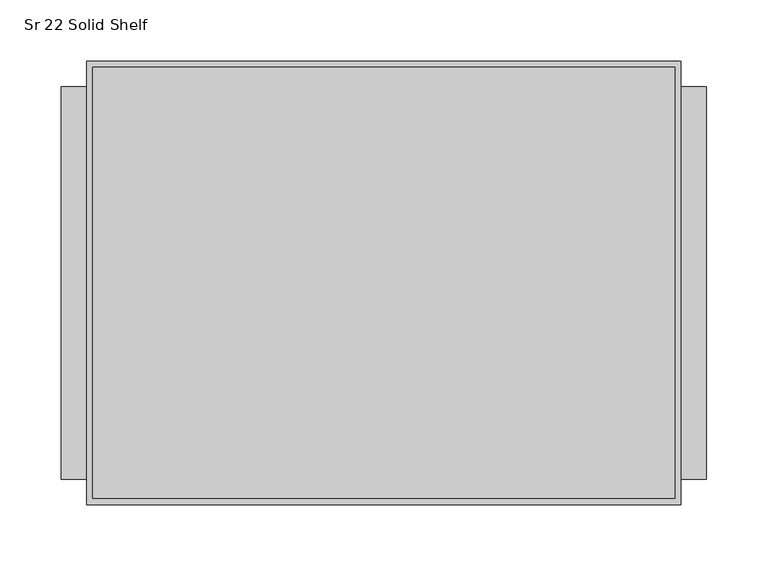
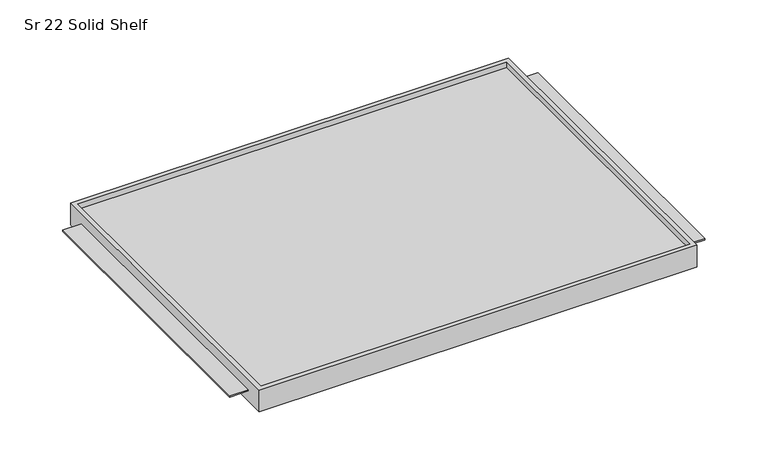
"""IFC4 building model written with IfcOpenShell, lengths in millimetres: furniture geometry, HermanMiller_Carts_CT521_CartShelf : Sr 22 Solid Shelf."""

from ifc_helpers import new_model, si_unit, frame, origin, place, context, project, spatial, polyline, outline, extrude, faceted_brep, source, transform, mapped, element, save


def sr_22_solid_shelf_f207532c(model_context):
    return source(origin(), model_context, "Body", "SolidModel", [
        extrude(outline(polyline([(-299.9701517, -185.7375), (-320.6076517, -185.7375), (-320.6076517, 134.9375), (-299.9701517, 134.9375), (-299.9701517, -185.7375)])), frame((0.0, 0.0, 1100.9376346), z_axis=(0.0, 0.0, 1.0), x_axis=(1.0, 0.0, 0.0)), (0.0, 0.0, 1.0), 1.5875),
        extrude(outline(polyline([(206.4423483, 134.9375), (206.4423483, -185.7375), (180.7248483, -185.7375), (180.7248483, 134.9375), (206.4423483, 134.9375)])), frame((0.0, 0.0, 1100.9376346), z_axis=(0.0, 0.0, 1.0), x_axis=(1.0, 0.0, 0.0)), (0.0, 0.0, 1.0), 1.5875),
        faceted_brep([(185.8048483, -206.375, 1114.4313846), (-299.9701517, -206.375, 1114.4313846), (-299.9701517, -206.375, 1089.0313846), (185.8048483, -206.375, 1089.0313846), (185.8048483, 155.575, 1114.4313846), (185.8048483, 155.575, 1089.0313846), (-299.9701517, 155.575, 1089.0313846), (-299.9701517, 155.575, 1114.4313846), (-294.8901517, 150.495, 1114.4313846), (180.7248483, 150.495, 1114.4313846), (180.7248483, -201.295, 1114.4313846), (-294.8901517, -201.295, 1114.4313846), (180.7248483, 150.495, 1108.0813846), (-294.8901517, 150.495, 1108.0813846), (-294.8901517, -201.295, 1108.0813846), (180.7248483, -201.295, 1108.0813846)], [[[0, 1, 2, 3]], [[4, 5, 6, 7]], [[1, 0, 4, 7], [8, 9, 10, 11]], [[2, 1, 7, 6]], [[3, 2, 6, 5]], [[0, 3, 5, 4]], [[12, 13, 14, 15]], [[13, 12, 9, 8]], [[14, 13, 8, 11]], [[15, 14, 11, 10]], [[12, 15, 10, 9]]]),
    ])


if __name__ == "__main__":
    model = new_model("IFC4")
    model_context = context("Model", 3, world=origin())
    ifc_project = project(units=[si_unit("LENGTHUNIT", "METRE", prefix="MILLI")], contexts=[model_context])
    site = spatial("IfcSite", under=ifc_project)
    building = spatial("IfcBuilding", under=site)
    placement = place(None, origin())
    sr_22_solid_shelf_shape = sr_22_solid_shelf_f207532c(model_context)
    element("IfcFurniture", 1, ObjectType="HermanMiller_Carts_CT521_CartShelf : Sr 22 Solid Shelf", at=placement, inside=building, context=model_context, shape_type="MappedRepresentation", body=[
        mapped(sr_22_solid_shelf_shape, transform((0.0, 0.0, 0.0), x_axis=(1.0, 0.0, 0.0), y_axis=(0.0, 1.0, 0.0), z_axis=(0.0, 0.0, 1.0))),
    ])
    save(model, "model.ifc")
